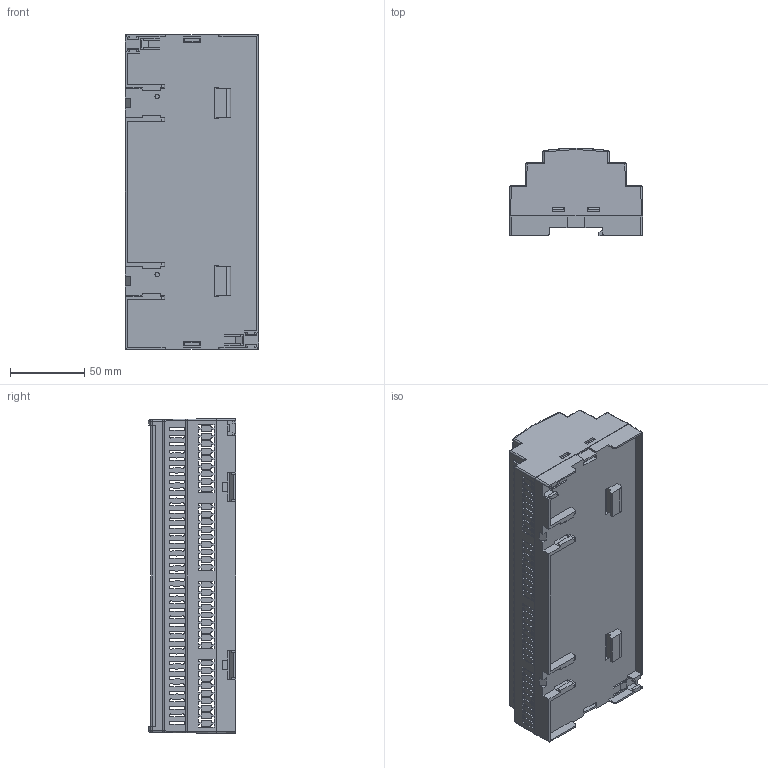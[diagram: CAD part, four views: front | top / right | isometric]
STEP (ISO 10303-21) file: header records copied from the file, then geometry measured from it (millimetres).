
FILE_DESCRIPTION (( 'STEP AP203' ), '1' );
FILE_NAME ('RT-212-D.STEP', '2021-11-01T08:43:08', ( '' ), ( '' ), 'SwSTEP 2.0', 'SolidWorks 2021', '' );
FILE_SCHEMA (( 'CONFIG_CONTROL_DESIGN' ));
Length unit declared in the file: millimetre
Products named in the file (4): RT-212-D; RT-212-P-1; RT-212-P-2_D; RT-212-25_RT-212-25-M3
Assembly tree (3 placements, depth 2):
  RT-212-D
    RT-212-P-1
    RT-212-P-2_D
    RT-212-25_RT-212-25-M3
Bounding box: 90 x 58.9 x 212.1 mm (x, y, z)
Volume: 135164.9 mm3; surface area: 145807.4 mm2
Topology: 3 solids, 3 shells, 2459 faces, 7321 edges, 4860 vertices
Faces by surface type: plane 1334, cylinder 1076, bspline 21, cone 16, sphere 12
Entity records: 83133 total; most frequent: CARTESIAN_POINT 22485, ORIENTED_EDGE 14626, DIRECTION 10114, EDGE_CURVE 7313, VECTOR 5048, LINE 5048, VERTEX_POINT 4860, EDGE_LOOP 2821
